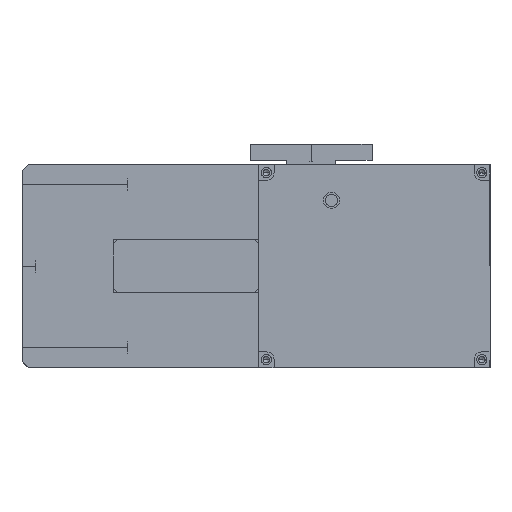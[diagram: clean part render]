
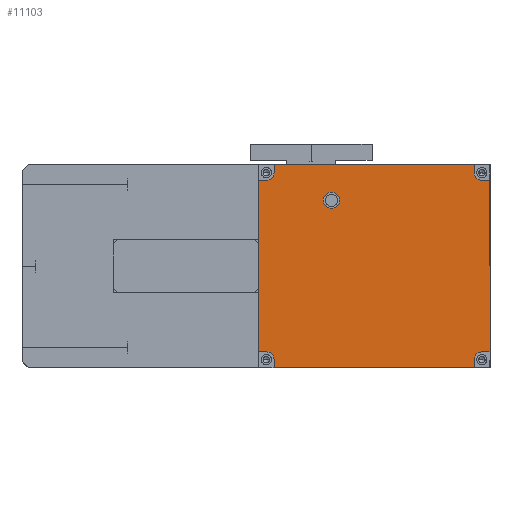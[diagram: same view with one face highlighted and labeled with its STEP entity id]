
A CAD part, left-side view. The second image highlights one B-rep face of the part: STEP entity #11103.
In plain terms, the highlighted planar face has unit normal (-1, 0, 0) as drawn and (0, 0, 1) by its records, which use the part's own axes.
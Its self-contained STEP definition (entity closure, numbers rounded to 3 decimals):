
#11 = VERTEX_POINT ( 'NONE', #764 ) ;
#12 = CARTESIAN_POINT ( 'NONE',  ( 2., 2., 6. ) ) ;
#43 = DIRECTION ( 'NONE',  ( 1., 0., 0. ) ) ;
#142 = CARTESIAN_POINT ( 'NONE',  ( 3.9, 2., 6. ) ) ;
#171 = LINE ( 'NONE', #11356, #14876 ) ;
#291 = VECTOR ( 'NONE', #6226, 1000. ) ;
#310 = CARTESIAN_POINT ( 'NONE',  ( 16., 41.2, 6. ) ) ;
#433 = EDGE_CURVE ( 'NONE', #12547, #11, #11758, .T. ) ;
#557 = FACE_OUTER_BOUND ( 'NONE', #6627, .T. ) ;
#583 = CARTESIAN_POINT ( 'NONE',  ( 0., 3.9, 6. ) ) ;
#675 = DIRECTION ( 'NONE',  ( 0., 0., 1. ) ) ;
#764 = CARTESIAN_POINT ( 'NONE',  ( 55., 46.1, 6. ) ) ;
#836 = LINE ( 'NONE', #4825, #11899 ) ;
#1101 = DIRECTION ( 'NONE',  ( 0., 0., 1. ) ) ;
#1296 = VECTOR ( 'NONE', #11293, 1000. ) ;
#1343 = ORIENTED_EDGE ( 'NONE', *, *, #13785, .T. ) ;
#1354 = DIRECTION ( 'NONE',  ( 0., 0., 1. ) ) ;
#1517 = AXIS2_PLACEMENT_3D ( 'NONE', #12, #3668, #12066 ) ;
#1605 = CARTESIAN_POINT ( 'NONE',  ( 3.9, 50., 6. ) ) ;
#1637 = CARTESIAN_POINT ( 'NONE',  ( 57., 46.1, 6. ) ) ;
#1660 = DIRECTION ( 'NONE',  ( -1., 0., 0. ) ) ;
#1752 = LINE ( 'NONE', #7974, #14142 ) ;
#1807 = EDGE_CURVE ( 'NONE', #5227, #8291, #3969, .T. ) ;
#1851 = ORIENTED_EDGE ( 'NONE', *, *, #1807, .F. ) ;
#1907 = DIRECTION ( 'NONE',  ( 1., 0., 0. ) ) ;
#2133 = DIRECTION ( 'NONE',  ( 1., 0., 0. ) ) ;
#2173 = EDGE_LOOP ( 'NONE', ( #1851, #6906 ) ) ;
#2241 = VECTOR ( 'NONE', #3922, 1000. ) ;
#2410 = CARTESIAN_POINT ( 'NONE',  ( 20., 41.2, 6. ) ) ;
#2447 = VERTEX_POINT ( 'NONE', #8512 ) ;
#2481 = ORIENTED_EDGE ( 'NONE', *, *, #8435, .T. ) ;
#2566 = CARTESIAN_POINT ( 'NONE',  ( 18., 41.2, 6. ) ) ;
#2612 = CIRCLE ( 'NONE', #13362, 1.9 ) ;
#2615 = DIRECTION ( 'NONE',  ( 1., 0., 0. ) ) ;
#2638 = CARTESIAN_POINT ( 'NONE',  ( 3.9, 48., 6. ) ) ;
#2641 = ORIENTED_EDGE ( 'NONE', *, *, #9644, .F. ) ;
#2817 = LINE ( 'NONE', #1605, #1296 ) ;
#2893 = DIRECTION ( 'NONE',  ( 0., 1., 0. ) ) ;
#3074 = DIRECTION ( 'NONE',  ( 0., -1., 0. ) ) ;
#3487 = CARTESIAN_POINT ( 'NONE',  ( 53.1, 2., 6. ) ) ;
#3628 = DIRECTION ( 'NONE',  ( 0., -1., 0. ) ) ;
#3629 = ORIENTED_EDGE ( 'NONE', *, *, #6175, .F. ) ;
#3668 = DIRECTION ( 'NONE',  ( 0., 0., 1. ) ) ;
#3759 = CARTESIAN_POINT ( 'NONE',  ( 55., 3.9, 6. ) ) ;
#3847 = DIRECTION ( 'NONE',  ( 0., 0., 1. ) ) ;
#3899 = VECTOR ( 'NONE', #2133, 1000. ) ;
#3922 = DIRECTION ( 'NONE',  ( -1., 0., 0. ) ) ;
#3969 = CIRCLE ( 'NONE', #12928, 2. ) ;
#3988 = LINE ( 'NONE', #13761, #5081 ) ;
#4040 = CARTESIAN_POINT ( 'NONE',  ( 2., 48., 6. ) ) ;
#4080 = LINE ( 'NONE', #6477, #2241 ) ;
#4108 = VECTOR ( 'NONE', #2893, 1000. ) ;
#4264 = ORIENTED_EDGE ( 'NONE', *, *, #11652, .F. ) ;
#4328 = LINE ( 'NONE', #11546, #4108 ) ;
#4419 = DIRECTION ( 'NONE',  ( 0., 0., 1. ) ) ;
#4589 = LINE ( 'NONE', #9150, #14626 ) ;
#4699 = ORIENTED_EDGE ( 'NONE', *, *, #13724, .F. ) ;
#4770 = CIRCLE ( 'NONE', #6822, 1.9 ) ;
#4825 = CARTESIAN_POINT ( 'NONE',  ( 53.1, 0., 6. ) ) ;
#5081 = VECTOR ( 'NONE', #12559, 1000. ) ;
#5227 = VERTEX_POINT ( 'NONE', #2410 ) ;
#5629 = VECTOR ( 'NONE', #13007, 1000. ) ;
#5745 = ORIENTED_EDGE ( 'NONE', *, *, #7124, .F. ) ;
#5754 = ORIENTED_EDGE ( 'NONE', *, *, #433, .F. ) ;
#5764 = CARTESIAN_POINT ( 'NONE',  ( 2., 3.9, 6. ) ) ;
#5769 = VERTEX_POINT ( 'NONE', #142 ) ;
#5860 = VERTEX_POINT ( 'NONE', #1637 ) ;
#5927 = EDGE_CURVE ( 'NONE', #8460, #9617, #4770, .T. ) ;
#6060 = CARTESIAN_POINT ( 'NONE',  ( 53.1, 50., 6. ) ) ;
#6175 = EDGE_CURVE ( 'NONE', #8464, #6812, #836, .T. ) ;
#6226 = DIRECTION ( 'NONE',  ( 0., -1., 0. ) ) ;
#6373 = CARTESIAN_POINT ( 'NONE',  ( 0., 46.1, 6. ) ) ;
#6381 = VERTEX_POINT ( 'NONE', #583 ) ;
#6400 = CARTESIAN_POINT ( 'NONE',  ( 53.1, 0., 6. ) ) ;
#6477 = CARTESIAN_POINT ( 'NONE',  ( 57., 3.9, 6. ) ) ;
#6506 = VERTEX_POINT ( 'NONE', #5764 ) ;
#6627 = EDGE_LOOP ( 'NONE', ( #5754, #10932, #10007, #4699, #9580, #4264, #10639, #11951, #5745, #10757, #2481, #3629, #13445, #2641, #1343, #6748 ) ) ;
#6636 = DIRECTION ( 'NONE',  ( 0., 1., 0. ) ) ;
#6748 = ORIENTED_EDGE ( 'NONE', *, *, #11041, .F. ) ;
#6812 = VERTEX_POINT ( 'NONE', #6400 ) ;
#6822 = AXIS2_PLACEMENT_3D ( 'NONE', #4040, #675, #14049 ) ;
#6906 = ORIENTED_EDGE ( 'NONE', *, *, #8142, .F. ) ;
#7124 = EDGE_CURVE ( 'NONE', #5769, #6506, #8667, .T. ) ;
#7729 = EDGE_CURVE ( 'NONE', #12548, #6381, #4589, .T. ) ;
#7741 = PLANE ( 'NONE',  #11221 ) ;
#7876 = EDGE_CURVE ( 'NONE', #9562, #5769, #1752, .T. ) ;
#7974 = CARTESIAN_POINT ( 'NONE',  ( 3.9, 0., 6. ) ) ;
#8079 = DIRECTION ( 'NONE',  ( -1., 0., 0. ) ) ;
#8142 = EDGE_CURVE ( 'NONE', #8291, #5227, #9699, .T. ) ;
#8291 = VERTEX_POINT ( 'NONE', #310 ) ;
#8417 = LINE ( 'NONE', #13320, #5629 ) ;
#8435 = EDGE_CURVE ( 'NONE', #9562, #6812, #8843, .T. ) ;
#8460 = VERTEX_POINT ( 'NONE', #15407 ) ;
#8464 = VERTEX_POINT ( 'NONE', #3487 ) ;
#8512 = CARTESIAN_POINT ( 'NONE',  ( 3.9, 50., 6. ) ) ;
#8638 = CARTESIAN_POINT ( 'NONE',  ( 3.9, 0., 6. ) ) ;
#8642 = VERTEX_POINT ( 'NONE', #9883 ) ;
#8667 = CIRCLE ( 'NONE', #1517, 1.9 ) ;
#8843 = LINE ( 'NONE', #10536, #3899 ) ;
#9150 = CARTESIAN_POINT ( 'NONE',  ( 0., 0., 6. ) ) ;
#9264 = FACE_BOUND ( 'NONE', #2173, .T. ) ;
#9562 = VERTEX_POINT ( 'NONE', #8638 ) ;
#9580 = ORIENTED_EDGE ( 'NONE', *, *, #5927, .F. ) ;
#9617 = VERTEX_POINT ( 'NONE', #2638 ) ;
#9644 = EDGE_CURVE ( 'NONE', #8642, #12128, #4080, .T. ) ;
#9699 = CIRCLE ( 'NONE', #12245, 2. ) ;
#9883 = CARTESIAN_POINT ( 'NONE',  ( 57., 3.9, 6. ) ) ;
#9903 = CARTESIAN_POINT ( 'NONE',  ( 53.1, 48., 6. ) ) ;
#10007 = ORIENTED_EDGE ( 'NONE', *, *, #13264, .T. ) ;
#10325 = DIRECTION ( 'NONE',  ( 0., 0., -1. ) ) ;
#10507 = CARTESIAN_POINT ( 'NONE',  ( 55., 48., 6. ) ) ;
#10536 = CARTESIAN_POINT ( 'NONE',  ( 0., 0., 6. ) ) ;
#10639 = ORIENTED_EDGE ( 'NONE', *, *, #7729, .T. ) ;
#10757 = ORIENTED_EDGE ( 'NONE', *, *, #7876, .F. ) ;
#10900 = LINE ( 'NONE', #13394, #13038 ) ;
#10932 = ORIENTED_EDGE ( 'NONE', *, *, #14070, .F. ) ;
#11041 = EDGE_CURVE ( 'NONE', #11, #5860, #3988, .T. ) ;
#11103 = ADVANCED_FACE ( 'NONE', ( #9264, #557 ), #7741, .F. ) ;
#11221 = AXIS2_PLACEMENT_3D ( 'NONE', #12718, #10325, #1660 ) ;
#11293 = DIRECTION ( 'NONE',  ( 0., 1., 0. ) ) ;
#11356 = CARTESIAN_POINT ( 'NONE',  ( 0., 3.9, 6. ) ) ;
#11546 = CARTESIAN_POINT ( 'NONE',  ( 57., 0., 6. ) ) ;
#11652 = EDGE_CURVE ( 'NONE', #12548, #8460, #10900, .T. ) ;
#11758 = CIRCLE ( 'NONE', #12521, 1.9 ) ;
#11899 = VECTOR ( 'NONE', #3628, 1000. ) ;
#11951 = ORIENTED_EDGE ( 'NONE', *, *, #15347, .F. ) ;
#12062 = CARTESIAN_POINT ( 'NONE',  ( 18., 41.2, 6. ) ) ;
#12066 = DIRECTION ( 'NONE',  ( -1., 0., 0. ) ) ;
#12128 = VERTEX_POINT ( 'NONE', #3759 ) ;
#12245 = AXIS2_PLACEMENT_3D ( 'NONE', #12062, #1101, #2615 ) ;
#12521 = AXIS2_PLACEMENT_3D ( 'NONE', #10507, #4419, #8079 ) ;
#12547 = VERTEX_POINT ( 'NONE', #9903 ) ;
#12548 = VERTEX_POINT ( 'NONE', #6373 ) ;
#12559 = DIRECTION ( 'NONE',  ( 1., 0., 0. ) ) ;
#12718 = CARTESIAN_POINT ( 'NONE',  ( 0., 0., 6. ) ) ;
#12928 = AXIS2_PLACEMENT_3D ( 'NONE', #2566, #3847, #14972 ) ;
#13007 = DIRECTION ( 'NONE',  ( -1., 0., 0. ) ) ;
#13038 = VECTOR ( 'NONE', #43, 1000. ) ;
#13264 = EDGE_CURVE ( 'NONE', #13990, #2447, #8417, .T. ) ;
#13320 = CARTESIAN_POINT ( 'NONE',  ( 0., 50., 6. ) ) ;
#13362 = AXIS2_PLACEMENT_3D ( 'NONE', #13526, #1354, #1907 ) ;
#13394 = CARTESIAN_POINT ( 'NONE',  ( 0., 46.1, 6. ) ) ;
#13445 = ORIENTED_EDGE ( 'NONE', *, *, #15429, .F. ) ;
#13526 = CARTESIAN_POINT ( 'NONE',  ( 55., 2., 6. ) ) ;
#13724 = EDGE_CURVE ( 'NONE', #9617, #2447, #2817, .T. ) ;
#13755 = LINE ( 'NONE', #14799, #291 ) ;
#13761 = CARTESIAN_POINT ( 'NONE',  ( 57., 46.1, 6. ) ) ;
#13785 = EDGE_CURVE ( 'NONE', #8642, #5860, #4328, .T. ) ;
#13990 = VERTEX_POINT ( 'NONE', #6060 ) ;
#14049 = DIRECTION ( 'NONE',  ( 1., 0., 0. ) ) ;
#14070 = EDGE_CURVE ( 'NONE', #13990, #12547, #13755, .T. ) ;
#14142 = VECTOR ( 'NONE', #6636, 1000. ) ;
#14626 = VECTOR ( 'NONE', #3074, 1000. ) ;
#14721 = DIRECTION ( 'NONE',  ( -1., 0., 0. ) ) ;
#14799 = CARTESIAN_POINT ( 'NONE',  ( 53.1, 50., 6. ) ) ;
#14876 = VECTOR ( 'NONE', #14721, 1000. ) ;
#14972 = DIRECTION ( 'NONE',  ( 1., 0., 0. ) ) ;
#15347 = EDGE_CURVE ( 'NONE', #6506, #6381, #171, .T. ) ;
#15407 = CARTESIAN_POINT ( 'NONE',  ( 2., 46.1, 6. ) ) ;
#15429 = EDGE_CURVE ( 'NONE', #12128, #8464, #2612, .T. ) ;
